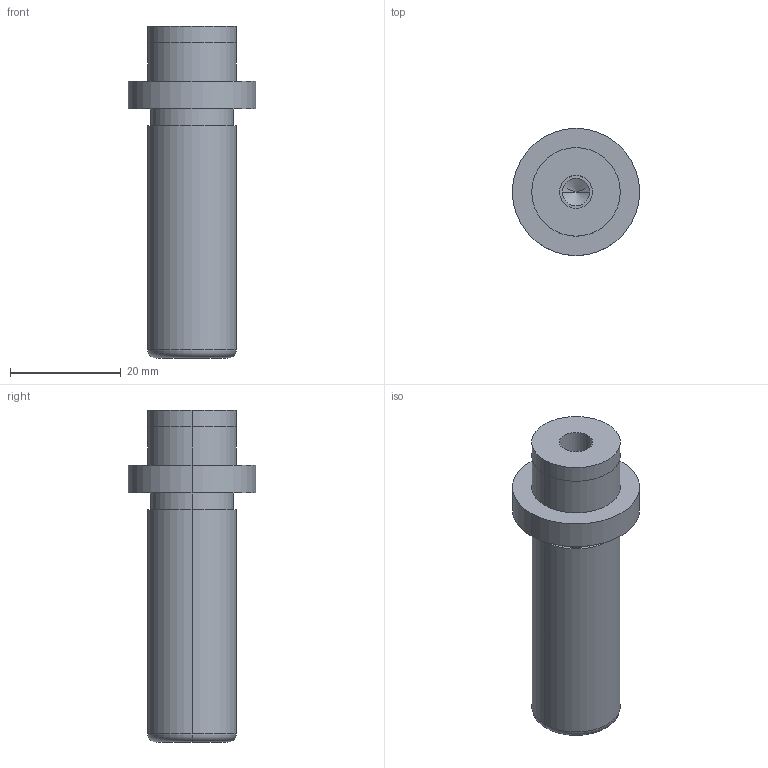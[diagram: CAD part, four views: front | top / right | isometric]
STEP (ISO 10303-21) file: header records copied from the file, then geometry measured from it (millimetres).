
FILE_DESCRIPTION(/* description */ (''),/* implementation_level */ '2;1');
FILE_NAME(/* name */ '3d_sgpw16-50_05275_r00.stp',/* time_stamp */ '2011-01-10T14:11:05+09:00',/* author */ ('MISUMI'),/* organization */ (''),/* preprocessor_version */ 'ST-DEVELOPER v11',/* originating_system */ 'UGS - NX 5.0',/* authorisation */ '');
FILE_SCHEMA (('CONFIG_CONTROL_DESIGN'));
Length unit declared in the file: millimetre
Products named in the file (1): 3d_sgpw16-50_05275_r00
Bounding box: 23 x 23 x 60 mm (x, y, z)
Volume: 12235.2 mm3; surface area: 4502.9 mm2
Topology: 1 solids, 1 shells, 31 faces, 64 edges, 38 vertices
Faces by surface type: cylinder 18, plane 7, cone 4, torus 2
Entity records: 890 total; most frequent: DIRECTION 162, CARTESIAN_POINT 130, ORIENTED_EDGE 120, AXIS2_PLACEMENT_3D 70, EDGE_CURVE 60, EDGE_LOOP 38, CIRCLE 38, VERTEX_POINT 38
